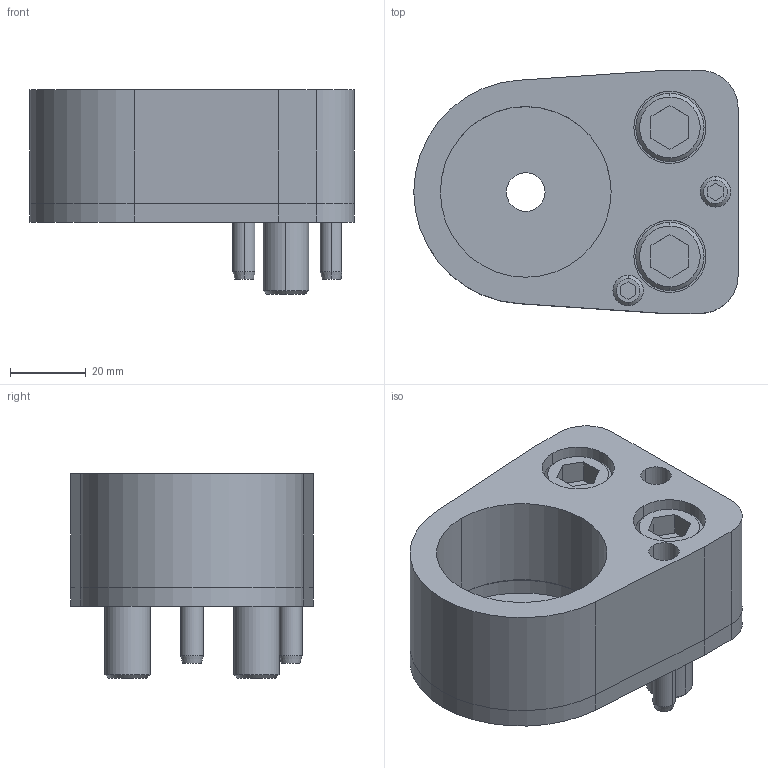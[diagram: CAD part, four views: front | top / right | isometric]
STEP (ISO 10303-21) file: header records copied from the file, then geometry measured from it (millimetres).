
FILE_DESCRIPTION(/* description */ (''),/* implementation_level */ '2;1');
FILE_NAME(/* name */ '3d_cp-ap45_02857_r00.stp',/* time_stamp */ '2011-01-10T14:16:29+09:00',/* author */ ('MISUMI'),/* organization */ (''),/* preprocessor_version */ 'ST-DEVELOPER v11',/* originating_system */ 'UGS - NX 5.0',/* authorisation */ '');
FILE_SCHEMA (('CONFIG_CONTROL_DESIGN'));
Length unit declared in the file: millimetre
Products named in the file (1): 3d_cp-ap45_02857_r00
Bounding box: 85.5 x 64 x 54 mm (x, y, z)
Volume: 119010.5 mm3; surface area: 40802.8 mm2
Topology: 8 solids, 8 shells, 152 faces, 340 edges, 218 vertices
Faces by surface type: plane 66, cylinder 60, cone 26
Entity records: 4397 total; most frequent: DIRECTION 788, CARTESIAN_POINT 762, ORIENTED_EDGE 680, EDGE_CURVE 340, AXIS2_PLACEMENT_3D 299, VERTEX_POINT 218, LINE 190, VECTOR 190
